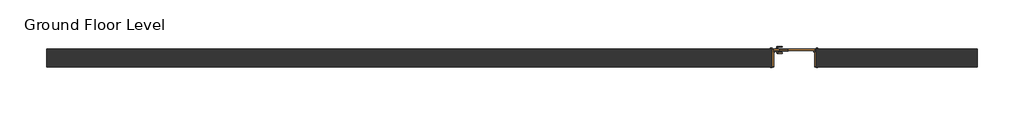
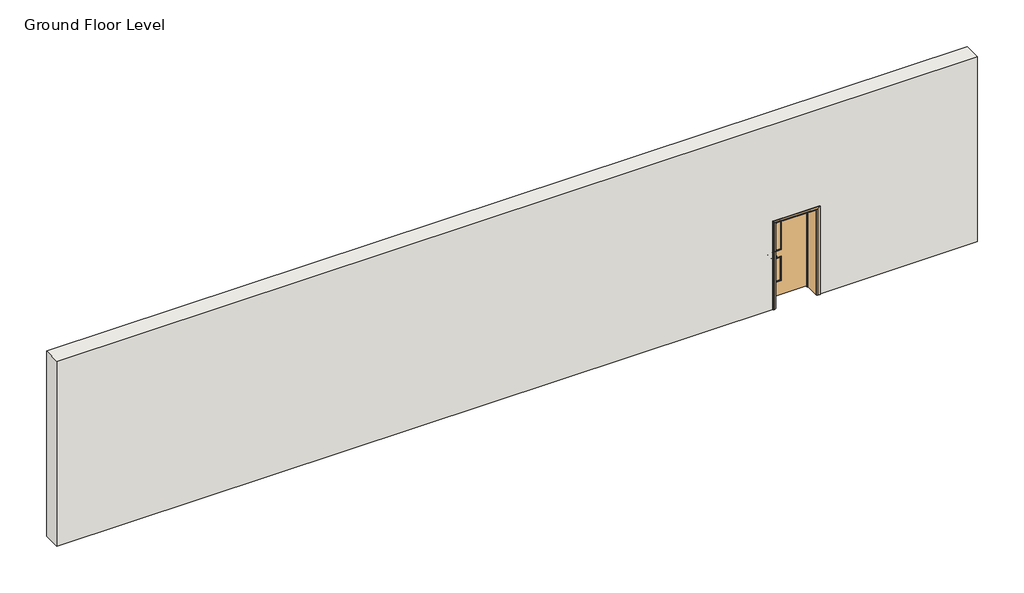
# One storey: 1 door, 1 wall.
"""IFC4 building model written with IfcOpenShell, lengths in millimetres."""

from ifc_helpers import new_model, si_unit, frame, origin, place, context, project, spatial, polyline, outline, extrude, transform, mapped, element, save
from components import doors_intsgl_3_1010x2110mm_e17657ac

model = new_model("IFC4")

# Units and contexts
model_context = context("Model", 3, world=origin())
ifc_project = project(units=[si_unit("LENGTHUNIT", "METRE", prefix="MILLI")], contexts=[model_context])

# Site, building, storey
site = spatial("IfcSite", under=ifc_project)
building = spatial("IfcBuilding", under=site)
storey = spatial("IfcBuildingStorey", under=building, Name="Ground Floor Level", Elevation=0.0)

# Door
placement = place(None, origin())
doors_intsgl_3_1010x2110mm_shape = doors_intsgl_3_1010x2110mm_e17657ac(model_context)
element("IfcDoor", 1, ObjectType="Doors_IntSgl_3 : 1010x2110mm", at=placement, inside=storey, context=model_context, shape_type="MappedRepresentation", body=[
    mapped(doors_intsgl_3_1010x2110mm_shape, transform((444898.458578, -385752.5860658, 0.0), x_axis=(1.0, 0.0, 0.0), y_axis=(0.0, 1.0, 0.0), z_axis=(0.0, 0.0, 1.0))),
])

# Wall
element("IfcWall", 2, ObjectType="Exterior Wall", at=placement, inside=storey, context=model_context, shape_type="SweptSolid", body=[
    extrude(outline(polyline([(0.0, 449061.058578), (4500.0, 449061.058578), (4500.0, 427917.001298), (0.0, 427917.001298), (0.0, 444393.458578), (2110.0, 444393.458578), (2110.0, 445403.458578), (0.0, 445403.458578), (0.0, 449061.058578)])), frame((0.0, -385953.5860658, 0.0), z_axis=(0.0, 1.0, 0.0), x_axis=(0.0, 0.0, 1.0)), (0.0, 0.0, 1.0), 402.0),
])

save(model, "model.ifc")
